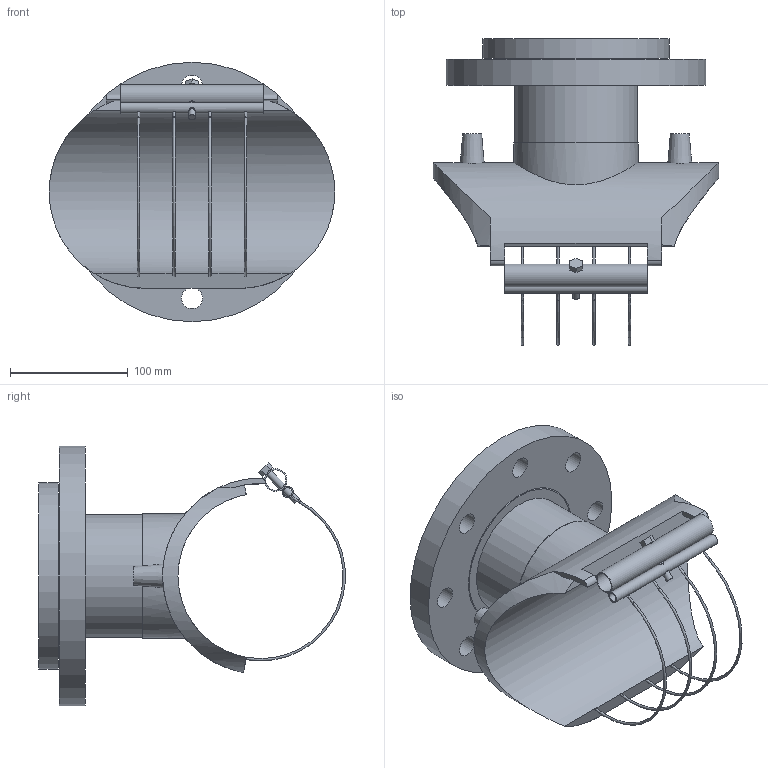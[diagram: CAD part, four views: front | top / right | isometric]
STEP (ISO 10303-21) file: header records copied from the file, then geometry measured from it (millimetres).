
FILE_DESCRIPTION(/* description */ ('Plasson Flanged Branch Saddle 140x100'),/* implementation_level */ '2;1');
FILE_NAME(/* name */ 'C:\Dropbox\99-16-3568-Processing\ElectroFusion Fittings\4959X4\stp\4959X4140100T.stp',/* time_stamp */ '2022-04-28T11:36:59+03:00',/* author */ ('KIM'),/* organization */ (''),/* preprocessor_version */ 'ST-DEVELOPER v17.2',/* originating_system */ 'Autodesk Inventor 2019',/* authorisation */ '');
FILE_SCHEMA (('AUTOMOTIVE_DESIGN { 1 0 10303 214 3 1 1 }'));
Length unit declared in the file: millimetre
Products named in the file (1): 4959X4140100T
Bounding box: 242 x 259.76 x 220 mm (x, y, z)
Volume: 1680713.8 mm3; surface area: 308988.5 mm2
Topology: 2 solids, 2 shells, 79 faces, 243 edges, 168 vertices
Faces by surface type: cylinder 40, plane 29, torus 8, cone 2
Full cylindrical faces by diameter (mm): 6 x3, 7.6 x1, 8 x1, 16 x1, 17.2 x1, 18 x8, 87 x1, 104.4 x1, 105.4 x1, 121.8 x1, 123.8 x1, 158 x1, 220 x1
Entity records: 3722 total; most frequent: CARTESIAN_POINT 1376, ORIENTED_EDGE 490, DIRECTION 481, EDGE_CURVE 245, AXIS2_PLACEMENT_3D 204, VERTEX_POINT 168, CIRCLE 120, EDGE_LOOP 117
